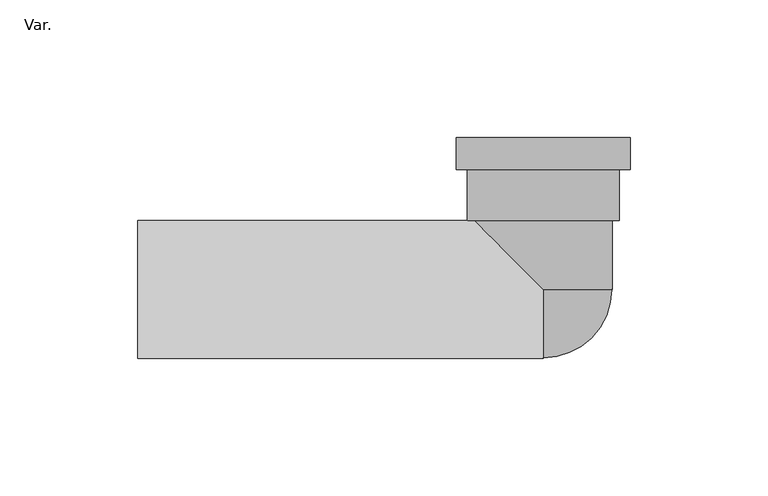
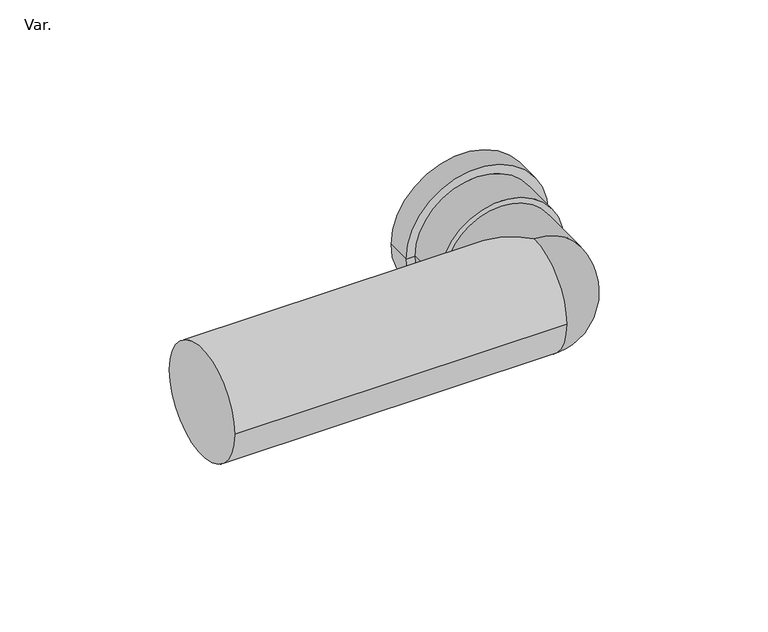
"""IFC4 building model written with IfcOpenShell, lengths in millimetres: pipe fitting geometry, NLRS_52_PIF_UN_HDPE wall urinal bend_Akatherm : Var.."""

from ifc_helpers import new_model, si_unit, point, frame, origin, place, context, project, spatial, circle_curve, ellipse_curve, trimmed, source, transform, mapped, element, save
from ifc_brep_helpers import plane_surface, cylinder_surface, revolved_surface, advanced_brep


def var_6ef94224(model_context):
    return source(origin(), model_context, "Body", "AdvancedBrep", [
        advanced_brep(
        [(-25.0, 25.0, 0.0), (25.0, 25.0, 0.0), (0.0, 0.0, 25.0), (25.0, 0.0, 0.0), (0.0, 0.0, -25.0), (-147.0, -25.0, 0.0), (-147.0, 25.0, 0.0), (0.0, -25.0, 0.0)],
        [
            (0, 1, circle_curve(frame((0.0, 25.0, 0.0), z_axis=(0.0, 1.0, 0.0), x_axis=(1.0, 0.0, 0.0)), 25.0)),
            (1, 0, circle_curve(frame((0.0, 25.0, 0.0), z_axis=(0.0, 1.0, 0.0), x_axis=(1.0, 0.0, 0.0)), 25.0)),
            (0, 2, ellipse_curve(frame((0.0, 0.0, 0.0), z_axis=(0.7071067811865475, 0.7071067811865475, 0.0), x_axis=(-0.7071067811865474, 0.7071067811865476, 0.0)), 35.3553391, 25.0)),
            (2, 3, circle_curve(frame((0.0, 0.0, 0.0), z_axis=(0.0, 1.0, 0.0), x_axis=(1.0, 0.0, 0.0)), 25.0)),
            (3, 1),
            (3, 4, circle_curve(frame((0.0, 0.0, 0.0), z_axis=(0.0, 1.0, 0.0), x_axis=(1.0, 0.0, 0.0)), 25.0)),
            (4, 0, ellipse_curve(frame((0.0, 0.0, 0.0), z_axis=(0.7071067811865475, 0.7071067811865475, 0.0), x_axis=(-0.7071067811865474, 0.7071067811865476, 0.0)), 35.3553391, 25.0)),
            (5, 6, circle_curve(frame((-147.0, 0.0, 0.0), z_axis=(-1.0, 0.0, 0.0), x_axis=(0.0, 1.0, 0.0)), 25.0)),
            (6, 5, circle_curve(frame((-147.0, 0.0, 0.0), z_axis=(-1.0, 0.0, 0.0), x_axis=(0.0, 1.0, 0.0)), 25.0)),
            (6, 0),
            (4, 7, circle_curve(frame((0.0, 0.0, 0.0), z_axis=(-1.0, 0.0, 0.0), x_axis=(0.0, 1.0, 0.0)), 25.0)),
            (7, 5),
            (7, 2, circle_curve(frame((0.0, 0.0, 0.0), z_axis=(-1.0, 0.0, 0.0), x_axis=(0.0, 1.0, 0.0)), 25.0)),
        ],
        [
            plane_surface(frame((0.0, 25.0, 0.0), z_axis=(0.0, 1.0, 0.0), x_axis=(0.0, 0.0, 1.0))),
            cylinder_surface(frame((0.0, 25.0, 0.0), z_axis=(0.0, 1.0, 0.0), x_axis=(1.0, 0.0, 0.0)), 25.0),
            plane_surface(frame((-147.0, 25.0, 0.0), z_axis=(-1.0, 0.0, 0.0), x_axis=(0.0, 0.0, -1.0))),
            cylinder_surface(frame((-147.0, 0.0, 0.0), z_axis=(1.0, 0.0, 0.0), x_axis=(0.0, 1.0, 0.0)), 25.0),
            revolved_surface(trimmed(ellipse_curve(frame((0.0, 0.0, 0.0), z_axis=(-1.0, 0.0, 0.0), x_axis=(0.0, 1.0, 0.0)), 25.0, 25.0), [point((0.0, 0.0, -25.0))], [point((0.0, 0.0, 25.0))], True, "CARTESIAN"), (0.0, 0.0, 65.0), (0.0, 0.0, 1.0)),
        ],
        [
            (0, [[1, 2]]),
            (1, [[-1, 3, 4, 5]]),
            (1, [[-2, -5, 6, 7]]),
            (2, [[8, 9]]),
            (3, [[-9, 10, -7, 11, 12]]),
            (3, [[-8, -12, 13, -3, -10]]),
            (4, [[-4, -13, -11, -6]]),
        ],
    ),
        advanced_brep(
        [(-27.5, 25.0, 0.0), (27.5, 25.0, 0.0), (0.0, 25.0, 0.0), (-27.5, 43.5, 0.0), (27.5, 43.5, 0.0), (-31.5, 43.5, 0.0), (31.5, 43.5, 0.0), (-31.5, 55.0, 0.0), (31.5, 55.0, 0.0), (0.0, 55.0, 0.0)],
        [
            (0, 1, circle_curve(frame((0.0, 25.0, 0.0), z_axis=(0.0, -1.0, 0.0), x_axis=(1.0, 0.0, 0.0)), 27.5)),
            (1, 2),
            (2, 0),
            (1, 0, circle_curve(frame((0.0, 25.0, 0.0), z_axis=(0.0, -1.0, 0.0), x_axis=(1.0, 0.0, 0.0)), 27.5)),
            (3, 4, circle_curve(frame((0.0, 43.5, 0.0), z_axis=(0.0, -1.0, 0.0), x_axis=(1.0, 0.0, 0.0)), 27.5)),
            (4, 1),
            (0, 3),
            (4, 3, circle_curve(frame((0.0, 43.5, 0.0), z_axis=(0.0, -1.0, 0.0), x_axis=(1.0, 0.0, 0.0)), 27.5)),
            (5, 6, circle_curve(frame((0.0, 43.5, 0.0), z_axis=(0.0, -1.0, 0.0), x_axis=(1.0, 0.0, 0.0)), 31.5)),
            (6, 4),
            (3, 5),
            (6, 5, circle_curve(frame((0.0, 43.5, 0.0), z_axis=(0.0, -1.0, 0.0), x_axis=(1.0, 0.0, 0.0)), 31.5)),
            (7, 8, circle_curve(frame((0.0, 55.0, 0.0), z_axis=(0.0, -1.0, 0.0), x_axis=(1.0, 0.0, 0.0)), 31.5)),
            (8, 6),
            (5, 7),
            (8, 7, circle_curve(frame((0.0, 55.0, 0.0), z_axis=(0.0, -1.0, 0.0), x_axis=(1.0, 0.0, 0.0)), 31.5)),
            (9, 8),
            (7, 9),
        ],
        [
            plane_surface(frame((0.0, 25.0, 0.0), z_axis=(0.0, -1.0, 0.0), x_axis=(1.0, 0.0, 0.0))),
            cylinder_surface(frame((0.0, 57.1707768, 0.0), z_axis=(0.0, 1.0, 0.0), x_axis=(1.0, 0.0, 0.0)), 27.5),
            plane_surface(frame((0.0, 43.5, 0.0), z_axis=(0.0, -1.0, 0.0), x_axis=(1.0, 0.0, 0.0))),
            cylinder_surface(frame((0.0, 57.1707768, 0.0), z_axis=(0.0, 1.0, 0.0), x_axis=(1.0, 0.0, 0.0)), 31.5),
            plane_surface(frame((0.0, 55.0, 0.0), z_axis=(0.0, 1.0, 0.0), x_axis=(1.0, 0.0, 0.0))),
        ],
        [
            (0, [[1, 2, 3]]),
            (0, [[4, -3, -2]]),
            (1, [[5, 6, -1, 7]]),
            (1, [[8, -7, -4, -6]]),
            (2, [[9, 10, -5, 11]]),
            (2, [[12, -11, -8, -10]]),
            (3, [[13, 14, -9, 15]]),
            (3, [[16, -15, -12, -14]]),
            (4, [[17, -13, 18]]),
            (4, [[-18, -16, -17]]),
        ],
    ),
    ])


if __name__ == "__main__":
    model = new_model("IFC4")
    model_context = context("Model", 3, world=origin())
    ifc_project = project(units=[si_unit("LENGTHUNIT", "METRE", prefix="MILLI")], contexts=[model_context])
    site = spatial("IfcSite", under=ifc_project)
    building = spatial("IfcBuilding", under=site)
    placement = place(None, origin())
    var_shape = var_6ef94224(model_context)
    element("IfcPipeFitting", 1, ObjectType="NLRS_52_PIF_UN_HDPE wall urinal bend_Akatherm : Var.", at=placement, inside=building, context=model_context, shape_type="MappedRepresentation", body=[
        mapped(var_shape, transform((0.0, 0.0, 0.0), x_axis=(1.0, 0.0, 0.0), y_axis=(0.0, 1.0, 0.0), z_axis=(0.0, 0.0, 1.0))),
    ])
    save(model, "model.ifc")
